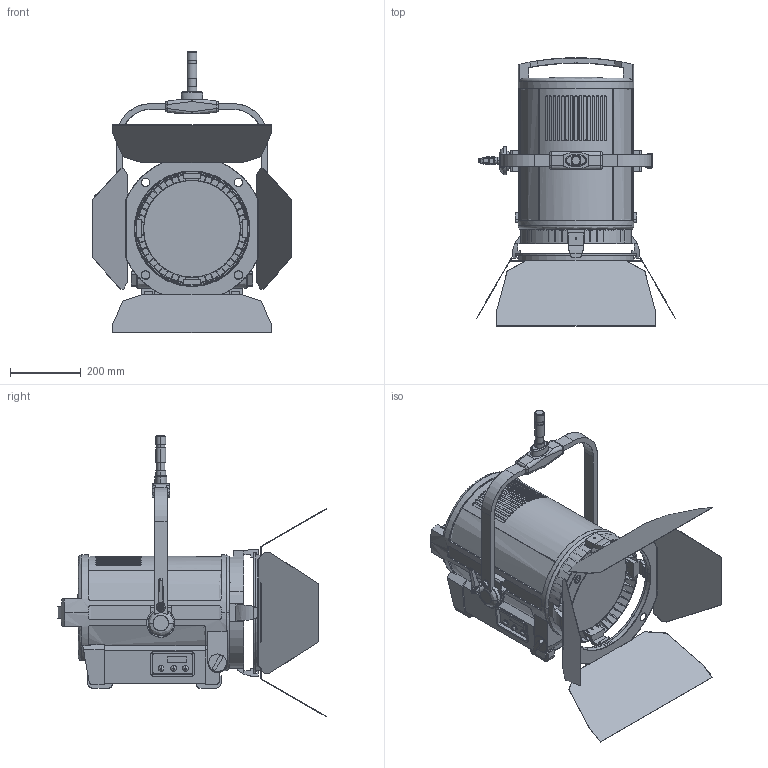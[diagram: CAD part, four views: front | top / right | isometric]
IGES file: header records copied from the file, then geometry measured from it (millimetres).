
Start section: SolidWorks IGES file using analytic representation for surfaces
Global section: file name: L:\Huttner\02_outgoing\2015-07-17 Rast\L10-man-silber.IGS; native system: SolidWorks 2013; preprocessor: SolidWorks 2013; author: huttner; date: 150817.133730; units: millimetre
Bounding box: 565 x 761.5 x 798.5 mm (x, y, z)
Surface area: 2641518.1 mm2 (no closed solid volume)
Topology: 0 solids, 0 shells, 1102 faces, 13055 edges, 13055 vertices
Faces by surface type: bspline 783, revolution 319
